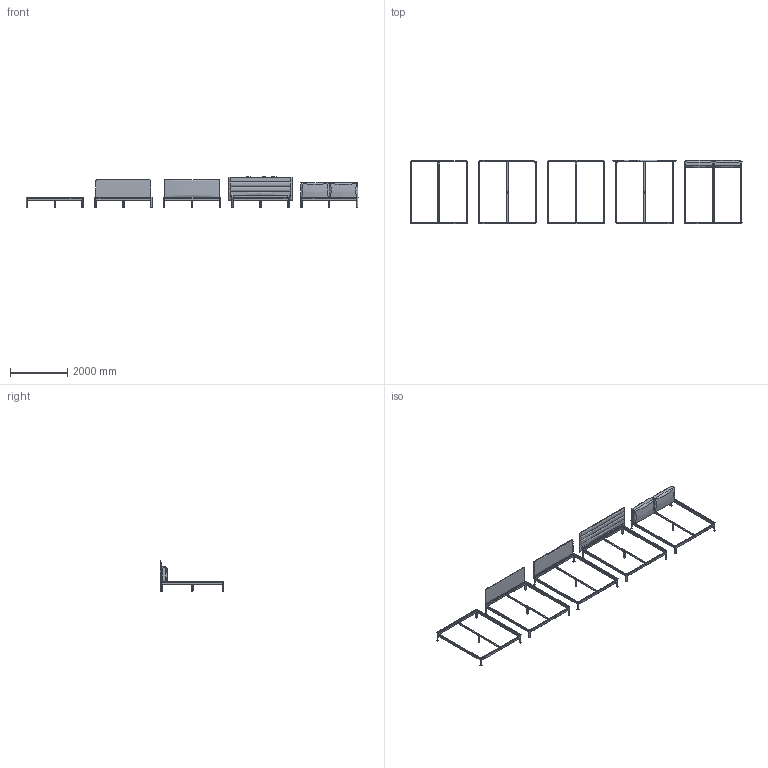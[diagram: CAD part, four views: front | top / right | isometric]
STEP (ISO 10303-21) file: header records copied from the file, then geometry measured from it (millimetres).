
FILE_DESCRIPTION(/* description */ (''),/* implementation_level */ '2;1');
FILE_NAME(/* name */ 'Heia-200x220',/* time_stamp */ '2025-10-14T14:57:22+02:00',/* author */ (''),/* organization */ (''),/* preprocessor_version */ 'ST-DEVELOPER v16.5',/* originating_system */ 'Rhino 7.38',/* authorisation */ '');
FILE_SCHEMA (('CONFIG_CONTROL_DESIGN'));
Length unit declared in the file: millimetre
Products named in the file (1): Document
Bounding box: 11611 x 2233.48 x 1051.22 mm (x, y, z)
Volume: 467716431 mm3; surface area: 30038950 mm2
Topology: 79 solids, 80 shells, 2142 faces, 5218 edges, 3214 vertices
Faces by surface type: plane 886, cylinder 832, bspline 424
Entity records: 72633 total; most frequent: CARTESIAN_POINT 39571, ORIENTED_EDGE 10394, EDGE_CURVE 5202, VERTEX_POINT 3214, B_SPLINE_CURVE_WITH_KNOTS 2255, EDGE_LOOP 2192, ADVANCED_FACE 2142, FACE_OUTER_BOUND 2142
